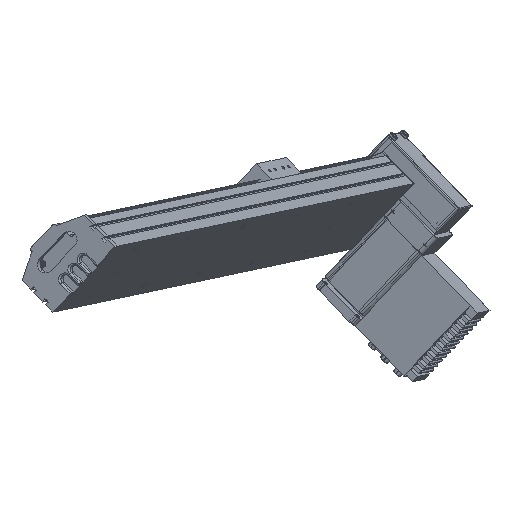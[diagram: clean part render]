
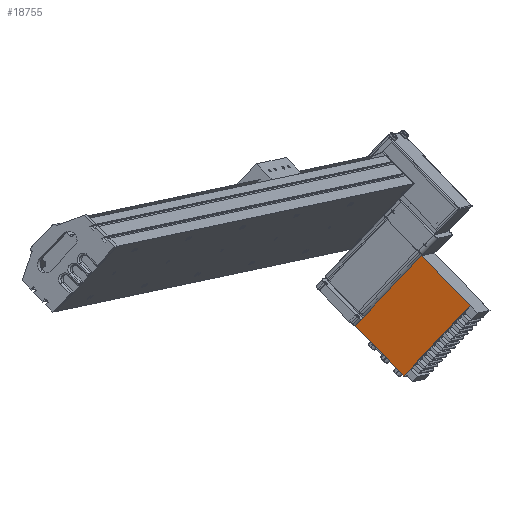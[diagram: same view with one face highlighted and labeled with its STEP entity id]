
A CAD part, top view. The second image highlights one B-rep face of the part: STEP entity #18755.
In plain terms, the highlighted planar face has unit normal (-0.289, -0.063, 0.955) as drawn and (-1, 0, 0) by its records, which use the part's own axes.
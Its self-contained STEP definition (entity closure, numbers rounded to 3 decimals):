
#4462 = CARTESIAN_POINT ( 'NONE',  ( -119.668, 196.474, 0. ) ) ;
#4463 = CARTESIAN_POINT ( 'NONE',  ( -119.668, 120.474, 107. ) ) ;
#4718 = CARTESIAN_POINT ( 'NONE',  ( -119.668, 196.474, 15. ) ) ;
#4957 = VECTOR ( 'NONE', #4958, 1000. ) ;
#4958 = DIRECTION ( 'NONE',  ( 0., 0., -1. ) ) ;
#4967 = FACE_OUTER_BOUND ( 'NONE', #18753, .T. ) ;
#5202 = LINE ( 'NONE', #5210, #4957 ) ;
#5210 = CARTESIAN_POINT ( 'NONE',  ( -119.668, 196.474, 109. ) ) ;
#5449 = DIRECTION ( 'NONE',  ( 0., 1., 0. ) ) ;
#5450 = DIRECTION ( 'NONE',  ( 1., 0., 0. ) ) ;
#5451 = CARTESIAN_POINT ( 'NONE',  ( -119.668, 120.474, 109. ) ) ;
#5452 = PLANE ( 'NONE',  #5482 ) ;
#5463 = CARTESIAN_POINT ( 'NONE',  ( -119.668, 120.474, 0. ) ) ;
#5482 = AXIS2_PLACEMENT_3D ( 'NONE', #5451, #5450, #5449 ) ;
#5675 = CARTESIAN_POINT ( 'NONE',  ( -119.668, 119.474, 107. ) ) ;
#5676 = LINE ( 'NONE', #5675, #5721 ) ;
#5707 = DIRECTION ( 'NONE',  ( 0., 0., -1. ) ) ;
#5708 = VECTOR ( 'NONE', #5707, 1000. ) ;
#5709 = DIRECTION ( 'NONE',  ( 0., 0., -1. ) ) ;
#5710 = VECTOR ( 'NONE', #5709, 1000. ) ;
#5711 = CARTESIAN_POINT ( 'NONE',  ( -119.668, 196.474, 109. ) ) ;
#5712 = LINE ( 'NONE', #5711, #5710 ) ;
#5713 = CARTESIAN_POINT ( 'NONE',  ( -119.668, 196.474, 109. ) ) ;
#5714 = LINE ( 'NONE', #5713, #5708 ) ;
#5717 = DIRECTION ( 'NONE',  ( 0., -1., 0. ) ) ;
#5718 = CARTESIAN_POINT ( 'NONE',  ( -119.668, 196.474, 107. ) ) ;
#5721 = VECTOR ( 'NONE', #5717, 1000. ) ;
#5764 = CARTESIAN_POINT ( 'NONE',  ( -119.668, 196.474, 10. ) ) ;
#5766 = LINE ( 'NONE', #5798, #5803 ) ;
#5798 = CARTESIAN_POINT ( 'NONE',  ( -119.668, 120.474, 0. ) ) ;
#5802 = DIRECTION ( 'NONE',  ( 0., -1., 0. ) ) ;
#5803 = VECTOR ( 'NONE', #5802, 1000. ) ;
#5848 = DIRECTION ( 'NONE',  ( 0., 0., -1. ) ) ;
#5849 = VECTOR ( 'NONE', #5848, 1000. ) ;
#5850 = CARTESIAN_POINT ( 'NONE',  ( -119.668, 120.474, 109. ) ) ;
#5851 = LINE ( 'NONE', #5850, #5849 ) ;
#18746 = EDGE_CURVE ( 'NONE', #18749, #18751, #5676, .T. ) ;
#18749 = VERTEX_POINT ( 'NONE', #5718 ) ;
#18750 = EDGE_CURVE ( 'NONE', #18764, #18752, #5712, .T. ) ;
#18751 = VERTEX_POINT ( 'NONE', #4463 ) ;
#18752 = VERTEX_POINT ( 'NONE', #4462 ) ;
#18753 = EDGE_LOOP ( 'NONE', ( #18757, #18756, #18761, #18823, #18826, #18763 ) ) ;
#18754 = VERTEX_POINT ( 'NONE', #4718 ) ;
#18755 = ADVANCED_FACE ( 'NONE', ( #4967 ), #5452, .F. ) ;
#18756 = ORIENTED_EDGE ( 'NONE', *, *, #18758, .T. ) ;
#18757 = ORIENTED_EDGE ( 'NONE', *, *, #18746, .F. ) ;
#18758 = EDGE_CURVE ( 'NONE', #18749, #18754, #5202, .T. ) ;
#18759 = VERTEX_POINT ( 'NONE', #5463 ) ;
#18761 = ORIENTED_EDGE ( 'NONE', *, *, #18762, .T. ) ;
#18762 = EDGE_CURVE ( 'NONE', #18754, #18764, #5714, .T. ) ;
#18763 = ORIENTED_EDGE ( 'NONE', *, *, #18827, .F. ) ;
#18764 = VERTEX_POINT ( 'NONE', #5764 ) ;
#18823 = ORIENTED_EDGE ( 'NONE', *, *, #18750, .T. ) ;
#18824 = EDGE_CURVE ( 'NONE', #18752, #18759, #5766, .T. ) ;
#18826 = ORIENTED_EDGE ( 'NONE', *, *, #18824, .T. ) ;
#18827 = EDGE_CURVE ( 'NONE', #18751, #18759, #5851, .T. ) ;
